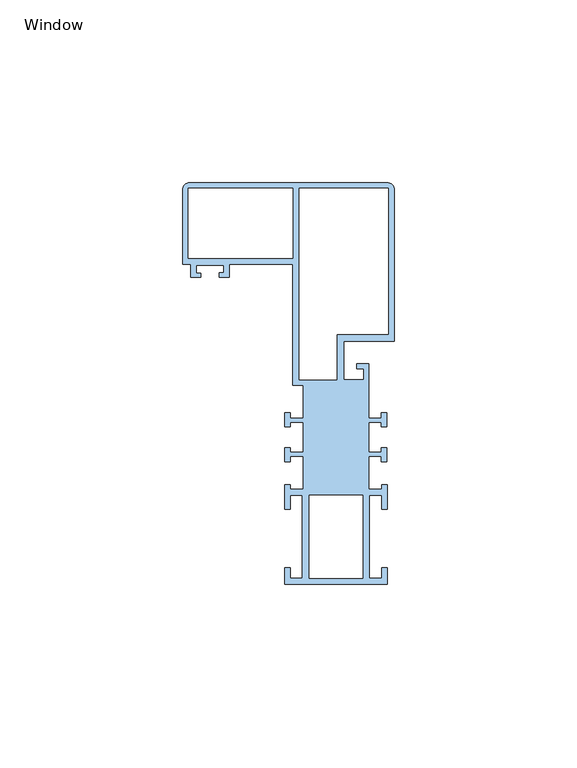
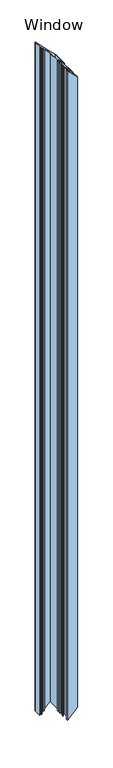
"""IFC4 building model written with IfcOpenShell, lengths in millimetres: window geometry, QO-V-QBISS_Window Module : Window."""

from ifc_helpers import new_model, si_unit, frame, origin, place, context, project, spatial, ellipse_curve, source, transform, mapped, element, save
from ifc_brep_helpers import plane_surface, cylinder_surface, advanced_brep


def window_7d5e8ae2(model_context):
    return source(origin(), model_context, "Body", "AdvancedBrep", [
        advanced_brep(
        [(-970.9523452, -84.0037561, 1954.4523452), (-970.9523452, -75.0037405, 1954.4523452), (-970.9523452, -75.0037405, 45.5476548), (-970.9523452, -84.0037561, 45.5476548), (-974.4523458, -75.0037405, 1957.9523458), (-974.4523458, -75.0037405, 42.0476542), (-974.4523458, -76.5037405, 42.0476542), (-975.9523458, -76.5037405, 40.5476542), (-975.9523458, -72.6037405, 40.5476542), (-974.4523458, -72.6037405, 42.0476542), (-974.4523458, -73.8037405, 42.0476542), (-970.9523458, -73.8037405, 45.5476542), (-970.9523458, -65.7037405, 45.5476542), (-974.4523458, -65.7037405, 42.0476542), (-974.4523458, -66.9037405, 42.0476542), (-975.9523458, -66.9037405, 40.5476542), (-975.9523458, -63.0037405, 40.5476542), (-974.4523458, -63.0037405, 42.0476542), (-974.4523458, -64.5037405, 42.0476542), (-970.9523459, -64.5037405, 45.5476541), (-970.9523459, -55.4999986, 45.5476541), (-973.8, -55.4999986, 42.7), (-973.8, -22.4, 42.7), (-991.2018295, -22.4, 25.2981705), (-991.2018295, -26.0, 25.2981705), (-994.0018295, -26.0, 22.4981705), (-994.0018295, -24.7, 22.4981705), (-992.7018295, -24.7, 23.7981705), (-992.7018295, -22.7, 23.7981705), (-1000.3018295, -22.7, 16.1981705), (-1000.3018295, -24.8, 16.1981705), (-999.0018295, -24.8, 17.4981705), (-999.0018295, -26.0, 17.4981705), (-1001.8018295, -26.0, 14.6981705), (-1001.8018295, -22.4, 14.6981705), (-1004.0, -22.4, 12.5), (-1004.0, -2.0, 12.5), (-1002.0, 0.0, 14.5), (-948.0, 0.0, 68.5), (-946.0, -2.0, 70.5), (-946.0, -43.5, 70.5), (-959.8, -43.5, 56.7), (-959.8, -54.0, 56.7), (-954.4, -54.0, 62.1), (-954.4, -51.0, 62.1), (-956.3, -51.0, 60.2), (-956.3, -49.6, 60.2), (-953.0, -49.6, 63.5), (-953.0, -64.5037405, 63.5), (-949.5513133, -64.5037405, 66.9486867), (-949.5513133, -63.0037405, 66.9486867), (-948.0513133, -63.0037405, 68.4486867), (-948.0513133, -66.9037405, 68.4486867), (-949.5513133, -66.9037405, 66.9486867), (-949.5513133, -65.7037405, 66.9486867), (-953.0513133, -65.7037405, 63.4486867), (-953.0513133, -73.8037405, 63.4486867), (-949.5513133, -73.8037405, 66.9486867), (-949.5513133, -72.6037405, 66.9486867), (-948.0513133, -72.6037405, 68.4486867), (-948.0513133, -76.5037405, 68.4486867), (-949.5513133, -76.5037405, 66.9486867), (-949.5513133, -75.0037405, 66.9486867), (-953.0513139, -75.0037405, 63.4486861), (-953.0513139, -84.0037561, 63.4486861), (-949.5018295, -84.0037561, 66.9981705), (-949.5018295, -82.8037561, 66.9981705), (-948.0018295, -82.8037561, 68.4981705), (-948.0018295, -89.5037561, 68.4981705), (-949.5018295, -89.5037561, 66.9981705), (-949.5018295, -85.7037561, 66.9981705), (-952.8018295, -85.7037561, 63.6981705), (-952.8018295, -108.3037561, 63.6981705), (-949.5018295, -108.3037561, 66.9981705), (-949.5018295, -105.5037561, 66.9981705), (-948.0018295, -105.5037561, 68.4981705), (-948.0018295, -110.0037561, 68.4981705), (-976.0018295, -110.0037561, 40.4981705), (-976.0018295, -105.5037561, 40.4981705), (-974.5018295, -105.5037561, 41.9981705), (-974.5018295, -108.3037561, 41.9981705), (-971.2018295, -108.3037561, 45.2981705), (-971.2018295, -85.7037561, 45.2981705), (-974.5018295, -85.7037561, 41.9981705), (-974.5018295, -89.5037561, 41.9981705), (-976.0018295, -89.5037561, 40.4981705), (-976.0018295, -82.8037561, 40.4981705), (-974.5018295, -82.8037561, 41.9981705), (-974.5018295, -84.0037561, 41.9981705), (-973.8, -20.7, 42.7), (-973.8, -1.5, 42.7), (-1002.5, -1.5, 14.0), (-1002.5, -20.7, 14.0), (-961.8, -54.0, 54.7), (-961.8, -41.5, 54.7), (-947.7, -41.5, 68.8), (-947.7, -1.5, 68.8), (-972.1, -1.5, 44.4), (-972.1, -54.0, 44.4), (-969.3018295, -108.3037561, 47.1981705), (-954.7018295, -108.3037561, 61.7981705), (-954.7018295, -85.7037561, 61.7981705), (-969.3018295, -85.7037561, 47.1981705), (-974.5018295, -84.0037561, 1958.0018295), (-974.5018295, -82.8037561, 1958.0018295), (-976.0018295, -82.8037561, 1959.5018295), (-976.0018295, -89.5037561, 1959.5018295), (-974.5018295, -89.5037561, 1958.0018295), (-974.5018295, -85.7037561, 1958.0018295), (-971.2018295, -85.7037561, 1954.7018295), (-971.2018295, -108.3037561, 1954.7018295), (-974.5018295, -108.3037561, 1958.0018295), (-974.5018295, -105.5037561, 1958.0018295), (-976.0018295, -105.5037561, 1959.5018295), (-976.0018295, -110.0037561, 1959.5018295), (-948.0018295, -110.0037561, 1931.5018295), (-948.0018295, -105.5037561, 1931.5018295), (-949.5018295, -105.5037561, 1933.0018295), (-949.5018295, -108.3037561, 1933.0018295), (-952.8018295, -108.3037561, 1936.3018295), (-952.8018295, -85.7037561, 1936.3018295), (-949.5018295, -85.7037561, 1933.0018295), (-949.5018295, -89.5037561, 1933.0018295), (-948.0018295, -89.5037561, 1931.5018295), (-948.0018295, -82.8037561, 1931.5018295), (-949.5018295, -82.8037561, 1933.0018295), (-949.5018295, -84.0037561, 1933.0018295), (-953.0513139, -84.0037561, 1936.5513139), (-953.0513139, -75.0037405, 1936.5513139), (-949.5513133, -75.0037405, 1933.0513133), (-949.5513133, -76.5037405, 1933.0513133), (-948.0513133, -76.5037405, 1931.5513133), (-948.0513133, -72.6037405, 1931.5513133), (-949.5513133, -72.6037405, 1933.0513133), (-949.5513133, -73.8037405, 1933.0513133), (-953.0513133, -73.8037405, 1936.5513133), (-953.0513133, -65.7037405, 1936.5513133), (-949.5513133, -65.7037405, 1933.0513133), (-949.5513133, -66.9037405, 1933.0513133), (-948.0513133, -66.9037405, 1931.5513133), (-948.0513133, -63.0037405, 1931.5513133), (-949.5513133, -63.0037405, 1933.0513133), (-949.5513133, -64.5037405, 1933.0513133), (-953.0, -64.5037405, 1936.5), (-953.0, -49.6, 1936.5), (-956.3, -49.6, 1939.8), (-956.3, -51.0, 1939.8), (-954.4, -51.0, 1937.9), (-954.4, -54.0, 1937.9), (-959.8, -54.0, 1943.3), (-959.8, -43.5, 1943.3), (-946.0, -43.5, 1929.5), (-946.0, -2.0, 1929.5), (-948.0, 0.0, 1931.5), (-1002.0, 0.0, 1985.5), (-1004.0, -2.0, 1987.5), (-1004.0, -22.4, 1987.5), (-1001.8018295, -22.4, 1985.3018295), (-1001.8018295, -26.0, 1985.3018295), (-999.0018295, -26.0, 1982.5018295), (-999.0018295, -24.8, 1982.5018295), (-1000.3018295, -24.8, 1983.8018295), (-1000.3018295, -22.7, 1983.8018295), (-992.7018295, -22.7, 1976.2018295), (-992.7018295, -24.7, 1976.2018295), (-994.0018295, -24.7, 1977.5018295), (-994.0018295, -26.0, 1977.5018295), (-991.2018295, -26.0, 1974.7018295), (-991.2018295, -22.4, 1974.7018295), (-973.8, -22.4, 1957.3), (-973.8, -55.4999986, 1957.3), (-970.9523459, -55.4999986, 1954.4523459), (-970.9523459, -64.5037405, 1954.4523459), (-974.4523458, -64.5037405, 1957.9523458), (-974.4523458, -63.0037405, 1957.9523458), (-975.9523458, -63.0037405, 1959.4523458), (-975.9523458, -66.9037405, 1959.4523458), (-974.4523458, -66.9037405, 1957.9523458), (-974.4523458, -65.7037405, 1957.9523458), (-970.9523458, -65.7037405, 1954.4523458), (-970.9523458, -73.8037405, 1954.4523458), (-974.4523458, -73.8037405, 1957.9523458), (-974.4523458, -72.6037405, 1957.9523458), (-975.9523458, -72.6037405, 1959.4523458), (-975.9523458, -76.5037405, 1959.4523458), (-974.4523458, -76.5037405, 1957.9523458), (-973.8, -20.7, 1957.3), (-973.8, -1.5, 1957.3), (-1002.5, -1.5, 1986.0), (-1002.5, -20.7, 1986.0), (-961.8, -54.0, 1945.3), (-961.8, -41.5, 1945.3), (-947.7, -41.5, 1931.2), (-972.1, -54.0, 1955.6), (-972.1, -1.5, 1955.6), (-947.7, -1.5, 1931.2), (-969.3018295, -108.3037561, 1952.8018295), (-954.7018295, -108.3037561, 1938.2018295), (-954.7018295, -85.7037561, 1938.2018295), (-969.3018295, -85.7037561, 1952.8018295)],
        [
            (0, 1),
            (1, 2),
            (2, 3),
            (3, 0),
            (1, 4),
            (4, 5),
            (5, 2),
            (5, 6),
            (6, 7),
            (7, 8),
            (8, 9),
            (9, 10),
            (10, 11),
            (11, 12),
            (12, 13),
            (13, 14),
            (14, 15),
            (15, 16),
            (16, 17),
            (17, 18),
            (18, 19),
            (19, 20),
            (20, 21),
            (21, 22),
            (22, 23),
            (23, 24),
            (24, 25),
            (25, 26),
            (26, 27),
            (27, 28),
            (28, 29),
            (29, 30),
            (30, 31),
            (31, 32),
            (32, 33),
            (33, 34),
            (34, 35),
            (35, 36),
            (36, 37, ellipse_curve(frame((-1002.0, -2.0, 14.5), z_axis=(0.7071067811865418, 0.0, -0.7071067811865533), x_axis=(0.7071067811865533, 0.0, 0.7071067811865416)), 2.8284271, 2.0)),
            (37, 38),
            (38, 39, ellipse_curve(frame((-948.0, -2.0, 68.5), z_axis=(0.7071067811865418, 0.0, -0.7071067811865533), x_axis=(0.7071067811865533, 0.0, 0.7071067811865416)), 2.8284271, 2.0)),
            (39, 40),
            (40, 41),
            (41, 42),
            (42, 43),
            (43, 44),
            (44, 45),
            (45, 46),
            (46, 47),
            (47, 48),
            (48, 49),
            (49, 50),
            (50, 51),
            (51, 52),
            (52, 53),
            (53, 54),
            (54, 55),
            (55, 56),
            (56, 57),
            (57, 58),
            (58, 59),
            (59, 60),
            (60, 61),
            (61, 62),
            (62, 63),
            (63, 64),
            (64, 65),
            (65, 66),
            (66, 67),
            (67, 68),
            (68, 69),
            (69, 70),
            (70, 71),
            (71, 72),
            (72, 73),
            (73, 74),
            (74, 75),
            (75, 76),
            (76, 77),
            (77, 78),
            (78, 79),
            (79, 80),
            (80, 81),
            (81, 82),
            (82, 83),
            (83, 84),
            (84, 85),
            (85, 86),
            (86, 87),
            (87, 88),
            (88, 3),
            (89, 90),
            (90, 91),
            (91, 92),
            (92, 89),
            (93, 94),
            (94, 95),
            (95, 96),
            (96, 97),
            (97, 98),
            (98, 93),
            (99, 100),
            (100, 101),
            (101, 102),
            (102, 99),
            (103, 0),
            (88, 103),
            (104, 103),
            (87, 104),
            (105, 104),
            (86, 105),
            (106, 105),
            (85, 106),
            (107, 106),
            (84, 107),
            (108, 107),
            (83, 108),
            (109, 108),
            (82, 109),
            (110, 109),
            (81, 110),
            (111, 110),
            (80, 111),
            (112, 111),
            (79, 112),
            (113, 112),
            (78, 113),
            (114, 113),
            (77, 114),
            (115, 114),
            (76, 115),
            (116, 115),
            (75, 116),
            (117, 116),
            (74, 117),
            (118, 117),
            (73, 118),
            (119, 118),
            (72, 119),
            (120, 119),
            (71, 120),
            (121, 120),
            (70, 121),
            (122, 121),
            (69, 122),
            (123, 122),
            (68, 123),
            (124, 123),
            (67, 124),
            (125, 124),
            (66, 125),
            (126, 125),
            (65, 126),
            (127, 126),
            (64, 127),
            (128, 127),
            (63, 128),
            (129, 128),
            (62, 129),
            (130, 129),
            (61, 130),
            (131, 130),
            (60, 131),
            (132, 131),
            (59, 132),
            (133, 132),
            (58, 133),
            (134, 133),
            (57, 134),
            (135, 134),
            (56, 135),
            (136, 135),
            (55, 136),
            (137, 136),
            (54, 137),
            (138, 137),
            (53, 138),
            (139, 138),
            (52, 139),
            (140, 139),
            (51, 140),
            (141, 140),
            (50, 141),
            (142, 141),
            (49, 142),
            (143, 142),
            (48, 143),
            (144, 143),
            (47, 144),
            (145, 144),
            (46, 145),
            (146, 145),
            (45, 146),
            (147, 146),
            (44, 147),
            (148, 147),
            (43, 148),
            (149, 148),
            (42, 149),
            (150, 149),
            (41, 150),
            (151, 150),
            (40, 151),
            (152, 151),
            (39, 152),
            (153, 152, ellipse_curve(frame((-948.0, -2.0, 1931.5), z_axis=(-0.7071067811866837, 0.0, -0.7071067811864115), x_axis=(-0.7071067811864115, 0.0, 0.7071067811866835)), 2.8284271, 2.0)),
            (38, 153),
            (154, 153),
            (37, 154),
            (36, 155),
            (155, 154, ellipse_curve(frame((-1002.0, -2.0, 1985.5), z_axis=(-0.7071067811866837, 0.0, -0.7071067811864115), x_axis=(-0.7071067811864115, 0.0, 0.7071067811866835)), 2.8284271, 2.0)),
            (35, 156),
            (156, 155),
            (34, 157),
            (157, 156),
            (158, 157),
            (33, 158),
            (159, 158),
            (32, 159),
            (160, 159),
            (31, 160),
            (161, 160),
            (30, 161),
            (162, 161),
            (29, 162),
            (163, 162),
            (28, 163),
            (164, 163),
            (27, 164),
            (165, 164),
            (26, 165),
            (166, 165),
            (25, 166),
            (167, 166),
            (24, 167),
            (168, 167),
            (23, 168),
            (169, 168),
            (22, 169),
            (170, 169),
            (21, 170),
            (171, 170),
            (20, 171),
            (172, 171),
            (19, 172),
            (173, 172),
            (18, 173),
            (174, 173),
            (17, 174),
            (175, 174),
            (16, 175),
            (176, 175),
            (15, 176),
            (177, 176),
            (14, 177),
            (178, 177),
            (13, 178),
            (179, 178),
            (12, 179),
            (180, 179),
            (11, 180),
            (181, 180),
            (10, 181),
            (182, 181),
            (9, 182),
            (183, 182),
            (8, 183),
            (184, 183),
            (7, 184),
            (185, 184),
            (6, 185),
            (4, 185),
            (186, 187),
            (187, 90),
            (89, 186),
            (187, 188),
            (188, 91),
            (189, 186),
            (92, 189),
            (188, 189),
            (190, 191),
            (191, 94),
            (93, 190),
            (191, 192),
            (192, 95),
            (193, 190),
            (98, 193),
            (194, 193),
            (97, 194),
            (195, 194),
            (96, 195),
            (192, 195),
            (196, 197),
            (197, 100),
            (99, 196),
            (197, 198),
            (198, 101),
            (199, 196),
            (102, 199),
            (198, 199),
        ],
        [
            plane_surface(frame((-970.9523452, -75.0037405, 1987.5), z_axis=(-1.0, 0.0, 0.0), x_axis=(0.0, 0.0, -1.0))),
            plane_surface(frame((-974.4523458, -75.0037405, 1987.5), z_axis=(0.0, -1.0, 0.0), x_axis=(0.0, 0.0, -1.0))),
            plane_surface(frame((-946.0, -180.0, 70.5), z_axis=(0.7071067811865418, 0.0, -0.7071067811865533), x_axis=(0.0, 1.0, 0.0))),
            plane_surface(frame((-970.9523452, -84.0037561, 1987.5), z_axis=(0.0, 1.0, 0.0), x_axis=(0.0, 0.0, -1.0))),
            plane_surface(frame((-974.5018295, -84.0037561, 1987.5), z_axis=(1.0, 0.0, 0.0), x_axis=(0.0, 0.0, -1.0))),
            plane_surface(frame((-974.5018295, -82.8037561, 1987.5), z_axis=(0.0, 1.0, 0.0), x_axis=(0.0, 0.0, -1.0))),
            plane_surface(frame((-976.0018295, -82.8037561, 1987.5), z_axis=(-1.0, 0.0, 0.0), x_axis=(0.0, 0.0, -1.0))),
            plane_surface(frame((-976.0018295, -89.5037561, 1987.5), z_axis=(0.0, -1.0, 0.0), x_axis=(0.0, 0.0, -1.0))),
            plane_surface(frame((-974.5018295, -89.5037561, 1987.5), z_axis=(1.0, 0.0, 0.0), x_axis=(0.0, 0.0, -1.0))),
            plane_surface(frame((-974.5018295, -85.7037561, 1987.5), z_axis=(0.0, -1.0, 0.0), x_axis=(0.0, 0.0, -1.0))),
            plane_surface(frame((-971.2018295, -85.7037561, 1987.5), z_axis=(-1.0, 0.0, 0.0), x_axis=(0.0, 0.0, -1.0))),
            plane_surface(frame((-971.2018295, -108.3037561, 1987.5), z_axis=(0.0, 1.0, 0.0), x_axis=(0.0, 0.0, -1.0))),
            plane_surface(frame((-974.5018295, -108.3037561, 1987.5), z_axis=(1.0, 0.0, 0.0), x_axis=(0.0, 0.0, -1.0))),
            plane_surface(frame((-974.5018295, -105.5037561, 1987.5), z_axis=(0.0, 1.0, 0.0), x_axis=(0.0, 0.0, -1.0))),
            plane_surface(frame((-976.0018295, -105.5037561, 1987.5), z_axis=(-1.0, 0.0, 0.0), x_axis=(0.0, 0.0, -1.0))),
            plane_surface(frame((-976.0018295, -110.0037561, 1987.5), z_axis=(0.0, -1.0, 0.0), x_axis=(0.0, 0.0, -1.0))),
            plane_surface(frame((-948.0018295, -110.0037561, 1987.5), z_axis=(1.0, 0.0, 0.0), x_axis=(0.0, 0.0, -1.0))),
            plane_surface(frame((-948.0018295, -105.5037561, 1987.5), z_axis=(0.0, 1.0, 0.0), x_axis=(0.0, 0.0, -1.0))),
            plane_surface(frame((-949.5018295, -105.5037561, 1987.5), z_axis=(-1.0, 0.0, 0.0), x_axis=(0.0, 0.0, -1.0))),
            plane_surface(frame((-949.5018295, -108.3037561, 1987.5), z_axis=(0.0, 1.0, 0.0), x_axis=(0.0, 0.0, -1.0))),
            plane_surface(frame((-952.8018295, -108.3037561, 1987.5), z_axis=(1.0, 0.0, 0.0), x_axis=(0.0, 0.0, -1.0))),
            plane_surface(frame((-952.8018295, -85.7037561, 1987.5), z_axis=(0.0, -1.0, 0.0), x_axis=(0.0, 0.0, -1.0))),
            plane_surface(frame((-949.5018295, -85.7037561, 1987.5), z_axis=(-1.0, 0.0, 0.0), x_axis=(0.0, 0.0, -1.0))),
            plane_surface(frame((-949.5018295, -89.5037561, 1987.5), z_axis=(0.0, -1.0, 0.0), x_axis=(0.0, 0.0, -1.0))),
            plane_surface(frame((-948.0018295, -89.5037561, 1987.5), z_axis=(1.0, 0.0, 0.0), x_axis=(0.0, 0.0, -1.0))),
            plane_surface(frame((-948.0018295, -82.8037561, 1987.5), z_axis=(0.0, 1.0, 0.0), x_axis=(0.0, 0.0, -1.0))),
            plane_surface(frame((-949.5018295, -82.8037561, 1987.5), z_axis=(-1.0, 0.0, 0.0), x_axis=(0.0, 0.0, -1.0))),
            plane_surface(frame((-949.5018295, -84.0037561, 1987.5), z_axis=(0.0, 1.0, 0.0), x_axis=(0.0, 0.0, -1.0))),
            plane_surface(frame((-953.0513139, -84.0037561, 1987.5), z_axis=(1.0, 0.0, 0.0), x_axis=(0.0, 0.0, -1.0))),
            plane_surface(frame((-953.0513139, -75.0037405, 1987.5), z_axis=(0.0, -1.0, 0.0), x_axis=(0.0, 0.0, -1.0))),
            plane_surface(frame((-949.5513133, -75.0037405, 1987.5), z_axis=(-1.0, 0.0, 0.0), x_axis=(0.0, 0.0, -1.0))),
            plane_surface(frame((-949.5513133, -76.5037405, 1987.5), z_axis=(0.0, -1.0, 0.0), x_axis=(0.0, 0.0, -1.0))),
            plane_surface(frame((-948.0513133, -76.5037405, 1987.5), z_axis=(1.0, 0.0, 0.0), x_axis=(0.0, 0.0, -1.0))),
            plane_surface(frame((-948.0513133, -72.6037405, 1987.5), z_axis=(0.0, 1.0, 0.0), x_axis=(0.0, 0.0, -1.0))),
            plane_surface(frame((-949.5513133, -72.6037405, 1987.5), z_axis=(-1.0, 0.0, 0.0), x_axis=(0.0, 0.0, -1.0))),
            plane_surface(frame((-949.5513133, -73.8037405, 1987.5), z_axis=(0.0, 1.0, 0.0), x_axis=(0.0, 0.0, -1.0))),
            plane_surface(frame((-953.0513133, -73.8037405, 1987.5), z_axis=(1.0, 0.0, 0.0), x_axis=(0.0, 0.0, -1.0))),
            plane_surface(frame((-953.0513133, -65.7037405, 1987.5), z_axis=(0.0, -1.0, 0.0), x_axis=(0.0, 0.0, -1.0))),
            plane_surface(frame((-949.5513133, -65.7037405, 1987.5), z_axis=(-1.0, 0.0, 0.0), x_axis=(0.0, 0.0, -1.0))),
            plane_surface(frame((-949.5513133, -66.9037405, 1987.5), z_axis=(0.0, -1.0, 0.0), x_axis=(0.0, 0.0, -1.0))),
            plane_surface(frame((-948.0513133, -66.9037405, 1987.5), z_axis=(1.0, 0.0, 0.0), x_axis=(0.0, 0.0, -1.0))),
            plane_surface(frame((-948.0513133, -63.0037405, 1987.5), z_axis=(0.0, 1.0, 0.0), x_axis=(0.0, 0.0, -1.0))),
            plane_surface(frame((-949.5513133, -63.0037405, 1987.5), z_axis=(-1.0, 0.0, 0.0), x_axis=(0.0, 0.0, -1.0))),
            plane_surface(frame((-949.5513133, -64.5037405, 1987.5), z_axis=(0.0, 1.0, 0.0), x_axis=(0.0, 0.0, -1.0))),
            plane_surface(frame((-953.0, -64.5037405, 1987.5), z_axis=(1.0, 0.0, 0.0), x_axis=(0.0, 0.0, -1.0))),
            plane_surface(frame((-953.0, -49.6, 1987.5), z_axis=(0.0, 1.0, 0.0), x_axis=(0.0, 0.0, -1.0))),
            plane_surface(frame((-956.3, -49.6, 1987.5), z_axis=(-1.0, 0.0, 0.0), x_axis=(0.0, 0.0, -1.0))),
            plane_surface(frame((-956.3, -51.0, 1987.5), z_axis=(0.0, -1.0, 0.0), x_axis=(0.0, 0.0, -1.0))),
            plane_surface(frame((-954.4, -51.0, 1987.5), z_axis=(-1.0, 0.0, 0.0), x_axis=(0.0, 0.0, -1.0))),
            plane_surface(frame((-954.4, -54.0, 1987.5), z_axis=(0.0, 1.0, 0.0), x_axis=(0.0, 0.0, -1.0))),
            plane_surface(frame((-959.8, -54.0, 1987.5), z_axis=(1.0, 0.0, 0.0), x_axis=(0.0, 0.0, -1.0))),
            plane_surface(frame((-959.8, -43.5, 1987.5), z_axis=(0.0, -1.0, 0.0), x_axis=(0.0, 0.0, -1.0))),
            plane_surface(frame((-946.0, -43.5, 1987.5), z_axis=(1.0, 0.0, 0.0), x_axis=(0.0, 0.0, -1.0))),
            cylinder_surface(frame((-948.0, -2.0, 1987.5), z_axis=(0.0, 0.0, 1.0), x_axis=(0.0, -1.0, 0.0)), 2.0),
            plane_surface(frame((-948.0, 0.0, 1987.5), z_axis=(0.0, 1.0, 0.0), x_axis=(0.0, 0.0, -1.0))),
            cylinder_surface(frame((-1002.0, -2.0, 1987.5), z_axis=(0.0, 0.0, 1.0), x_axis=(0.0, -1.0, 0.0)), 2.0),
            plane_surface(frame((-1004.0, -2.0, 1987.5), z_axis=(-1.0, 0.0, 0.0), x_axis=(0.0, 0.0, -1.0))),
            plane_surface(frame((-1004.0, -22.4, 1987.5), z_axis=(0.0, -1.0, 0.0), x_axis=(0.0, 0.0, -1.0))),
            plane_surface(frame((-1001.8018295, -22.4, 1987.5), z_axis=(-1.0, 0.0, 0.0), x_axis=(0.0, 0.0, -1.0))),
            plane_surface(frame((-1001.8018295, -26.0, 1987.5), z_axis=(0.0, -1.0, 0.0), x_axis=(0.0, 0.0, -1.0))),
            plane_surface(frame((-999.0018295, -26.0, 1987.5), z_axis=(1.0, 0.0, 0.0), x_axis=(0.0, 0.0, -1.0))),
            plane_surface(frame((-999.0018295, -24.8, 1987.5), z_axis=(0.0, 1.0, 0.0), x_axis=(0.0, 0.0, -1.0))),
            plane_surface(frame((-1000.3018295, -24.8, 1987.5), z_axis=(1.0, 0.0, 0.0), x_axis=(0.0, 0.0, -1.0))),
            plane_surface(frame((-1000.3018295, -22.7, 1987.5), z_axis=(0.0, -1.0, 0.0), x_axis=(0.0, 0.0, -1.0))),
            plane_surface(frame((-992.7018295, -22.7, 1987.5), z_axis=(-1.0, 0.0, 0.0), x_axis=(0.0, 0.0, -1.0))),
            plane_surface(frame((-992.7018295, -24.7, 1987.5), z_axis=(0.0, 1.0, 0.0), x_axis=(0.0, 0.0, -1.0))),
            plane_surface(frame((-994.0018295, -24.7, 1987.5), z_axis=(-1.0, 0.0, 0.0), x_axis=(0.0, 0.0, -1.0))),
            plane_surface(frame((-994.0018295, -26.0, 1987.5), z_axis=(0.0, -1.0, 0.0), x_axis=(0.0, 0.0, -1.0))),
            plane_surface(frame((-991.2018295, -26.0, 1987.5), z_axis=(1.0, 0.0, 0.0), x_axis=(0.0, 0.0, -1.0))),
            plane_surface(frame((-991.2018295, -22.4, 1987.5), z_axis=(0.0, -1.0, 0.0), x_axis=(0.0, 0.0, -1.0))),
            plane_surface(frame((-973.8, -22.4, 1987.5), z_axis=(-1.0, 0.0, 0.0), x_axis=(0.0, 0.0, -1.0))),
            plane_surface(frame((-973.8, -55.4999986, 1987.5), z_axis=(0.0, -1.0, 0.0), x_axis=(0.0, 0.0, -1.0))),
            plane_surface(frame((-970.9523459, -55.4999986, 1987.5), z_axis=(-1.0, 0.0, 0.0), x_axis=(0.0, 0.0, -1.0))),
            plane_surface(frame((-970.9523459, -64.5037405, 1987.5), z_axis=(0.0, 1.0, 0.0), x_axis=(0.0, 0.0, -1.0))),
            plane_surface(frame((-974.4523458, -64.5037405, 1987.5), z_axis=(1.0, 0.0, 0.0), x_axis=(0.0, 0.0, -1.0))),
            plane_surface(frame((-974.4523458, -63.0037405, 1987.5), z_axis=(0.0, 1.0, 0.0), x_axis=(0.0, 0.0, -1.0))),
            plane_surface(frame((-975.9523458, -63.0037405, 1987.5), z_axis=(-1.0, 0.0, 0.0), x_axis=(0.0, 0.0, -1.0))),
            plane_surface(frame((-975.9523458, -66.9037405, 1987.5), z_axis=(0.0, -1.0, 0.0), x_axis=(0.0, 0.0, -1.0))),
            plane_surface(frame((-974.4523458, -66.9037405, 1987.5), z_axis=(1.0, 0.0, 0.0), x_axis=(0.0, 0.0, -1.0))),
            plane_surface(frame((-974.4523458, -65.7037405, 1987.5), z_axis=(0.0, -1.0, 0.0), x_axis=(0.0, 0.0, -1.0))),
            plane_surface(frame((-970.9523458, -65.7037405, 1987.5), z_axis=(-1.0, 0.0, 0.0), x_axis=(0.0, 0.0, -1.0))),
            plane_surface(frame((-970.9523458, -73.8037405, 1987.5), z_axis=(0.0, 1.0, 0.0), x_axis=(0.0, 0.0, -1.0))),
            plane_surface(frame((-974.4523458, -73.8037405, 1987.5), z_axis=(1.0, 0.0, 0.0), x_axis=(0.0, 0.0, -1.0))),
            plane_surface(frame((-974.4523458, -72.6037405, 1987.5), z_axis=(0.0, 1.0, 0.0), x_axis=(0.0, 0.0, -1.0))),
            plane_surface(frame((-975.9523458, -72.6037405, 1987.5), z_axis=(-1.0, 0.0, 0.0), x_axis=(0.0, 0.0, -1.0))),
            plane_surface(frame((-975.9523458, -76.5037405, 1987.5), z_axis=(0.0, -1.0, 0.0), x_axis=(0.0, 0.0, -1.0))),
            plane_surface(frame((-974.4523458, -76.5037405, 1987.5), z_axis=(1.0, 0.0, 0.0), x_axis=(0.0, 0.0, -1.0))),
            plane_surface(frame((-973.8, -1.5, 1987.5), z_axis=(-1.0, 0.0, 0.0), x_axis=(0.0, 0.0, -1.0))),
            plane_surface(frame((-1002.5, -1.5, 1987.5), z_axis=(0.0, -1.0, 0.0), x_axis=(0.0, 0.0, -1.0))),
            plane_surface(frame((-973.8, -20.7, 1987.5), z_axis=(0.0, 1.0, 0.0), x_axis=(0.0, 0.0, -1.0))),
            plane_surface(frame((-1002.5, -20.7, 1987.5), z_axis=(1.0, 0.0, 0.0), x_axis=(0.0, 0.0, -1.0))),
            plane_surface(frame((-961.8, -41.5, 1987.5), z_axis=(-1.0, 0.0, 0.0), x_axis=(0.0, 0.0, -1.0))),
            plane_surface(frame((-947.7, -41.5, 1987.5), z_axis=(0.0, 1.0, 0.0), x_axis=(0.0, 0.0, -1.0))),
            plane_surface(frame((-961.8, -54.0, 1987.5), z_axis=(0.0, 1.0, 0.0), x_axis=(0.0, 0.0, -1.0))),
            plane_surface(frame((-972.1, -54.0, 1987.5), z_axis=(1.0, 0.0, 0.0), x_axis=(0.0, 0.0, -1.0))),
            plane_surface(frame((-972.1, -1.5, 1987.5), z_axis=(0.0, -1.0, 0.0), x_axis=(0.0, 0.0, -1.0))),
            plane_surface(frame((-947.7, -1.5, 1987.5), z_axis=(-1.0, 0.0, 0.0), x_axis=(0.0, 0.0, -1.0))),
            plane_surface(frame((-954.7018295, -108.3037561, 1987.5), z_axis=(0.0, 1.0, 0.0), x_axis=(0.0, 0.0, -1.0))),
            plane_surface(frame((-954.7018295, -85.7037561, 1987.5), z_axis=(-1.0, 0.0, 0.0), x_axis=(0.0, 0.0, -1.0))),
            plane_surface(frame((-969.3018295, -108.3037561, 1987.5), z_axis=(1.0, 0.0, 0.0), x_axis=(0.0, 0.0, -1.0))),
            plane_surface(frame((-969.3018295, -85.7037561, 1987.5), z_axis=(0.0, -1.0, 0.0), x_axis=(0.0, 0.0, -1.0))),
            plane_surface(frame((-1004.0, -120.0, 1987.5), z_axis=(0.7071067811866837, 0.0, 0.7071067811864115), x_axis=(0.0, 1.0, 0.0))),
        ],
        [
            (0, [[1, 2, 3, 4]]),
            (1, [[5, 6, 7, -2]]),
            (2, [[-3, -7, 8, 9, 10, 11, 12, 13, 14, 15, 16, 17, 18, 19, 20, 21, 22, 23, 24, 25, 26, 27, 28, 29, 30, 31, 32, 33, 34, 35, 36, 37, 38, 39, 40, 41, 42, 43, 44, 45, 46, 47, 48, 49, 50, 51, 52, 53, 54, 55, 56, 57, 58, 59, 60, 61, 62, 63, 64, 65, 66, 67, 68, 69, 70, 71, 72, 73, 74, 75, 76, 77, 78, 79, 80, 81, 82, 83, 84, 85, 86, 87, 88, 89, 90, 91], [92, 93, 94, 95], [96, 97, 98, 99, 100, 101], [102, 103, 104, 105]]),
            (3, [[106, -4, -91, 107]]),
            (4, [[108, -107, -90, 109]]),
            (5, [[110, -109, -89, 111]]),
            (6, [[112, -111, -88, 113]]),
            (7, [[114, -113, -87, 115]]),
            (8, [[116, -115, -86, 117]]),
            (9, [[118, -117, -85, 119]]),
            (10, [[120, -119, -84, 121]]),
            (11, [[122, -121, -83, 123]]),
            (12, [[124, -123, -82, 125]]),
            (13, [[126, -125, -81, 127]]),
            (14, [[128, -127, -80, 129]]),
            (15, [[130, -129, -79, 131]]),
            (16, [[132, -131, -78, 133]]),
            (17, [[134, -133, -77, 135]]),
            (18, [[136, -135, -76, 137]]),
            (19, [[138, -137, -75, 139]]),
            (20, [[140, -139, -74, 141]]),
            (21, [[142, -141, -73, 143]]),
            (22, [[144, -143, -72, 145]]),
            (23, [[146, -145, -71, 147]]),
            (24, [[148, -147, -70, 149]]),
            (25, [[150, -149, -69, 151]]),
            (26, [[152, -151, -68, 153]]),
            (27, [[154, -153, -67, 155]]),
            (28, [[156, -155, -66, 157]]),
            (29, [[158, -157, -65, 159]]),
            (30, [[160, -159, -64, 161]]),
            (31, [[162, -161, -63, 163]]),
            (32, [[164, -163, -62, 165]]),
            (33, [[166, -165, -61, 167]]),
            (34, [[168, -167, -60, 169]]),
            (35, [[170, -169, -59, 171]]),
            (36, [[172, -171, -58, 173]]),
            (37, [[174, -173, -57, 175]]),
            (38, [[176, -175, -56, 177]]),
            (39, [[178, -177, -55, 179]]),
            (40, [[180, -179, -54, 181]]),
            (41, [[182, -181, -53, 183]]),
            (42, [[184, -183, -52, 185]]),
            (43, [[186, -185, -51, 187]]),
            (44, [[188, -187, -50, 189]]),
            (45, [[190, -189, -49, 191]]),
            (46, [[192, -191, -48, 193]]),
            (47, [[194, -193, -47, 195]]),
            (48, [[196, -195, -46, 197]]),
            (49, [[198, -197, -45, 199]]),
            (50, [[200, -199, -44, 201]]),
            (51, [[202, -201, -43, 203]]),
            (52, [[204, -203, -42, 205]]),
            (53, [[206, -205, -41, 207]]),
            (54, [[208, -207, -40, 209]]),
            (55, [[210, 211, -209, -39]]),
            (56, [[-210, -38, 212, 213]]),
            (57, [[-212, -37, 214, 215]]),
            (58, [[216, -214, -36, 217]]),
            (59, [[218, -217, -35, 219]]),
            (60, [[220, -219, -34, 221]]),
            (61, [[222, -221, -33, 223]]),
            (62, [[224, -223, -32, 225]]),
            (63, [[226, -225, -31, 227]]),
            (64, [[228, -227, -30, 229]]),
            (65, [[230, -229, -29, 231]]),
            (66, [[232, -231, -28, 233]]),
            (67, [[234, -233, -27, 235]]),
            (68, [[236, -235, -26, 237]]),
            (69, [[238, -237, -25, 239]]),
            (70, [[240, -239, -24, 241]]),
            (71, [[242, -241, -23, 243]]),
            (72, [[244, -243, -22, 245]]),
            (73, [[246, -245, -21, 247]]),
            (74, [[248, -247, -20, 249]]),
            (75, [[250, -249, -19, 251]]),
            (76, [[252, -251, -18, 253]]),
            (77, [[254, -253, -17, 255]]),
            (78, [[256, -255, -16, 257]]),
            (79, [[258, -257, -15, 259]]),
            (80, [[260, -259, -14, 261]]),
            (81, [[262, -261, -13, 263]]),
            (82, [[264, -263, -12, 265]]),
            (83, [[266, -265, -11, 267]]),
            (84, [[268, -267, -10, 269]]),
            (85, [[270, -269, -9, 271]]),
            (86, [[272, -271, -8, -6]]),
            (87, [[273, 274, -92, 275]]),
            (88, [[276, 277, -93, -274]]),
            (89, [[278, -275, -95, 279]]),
            (90, [[280, -279, -94, -277]]),
            (91, [[281, 282, -96, 283]]),
            (92, [[284, 285, -97, -282]]),
            (93, [[286, -283, -101, 287]]),
            (94, [[288, -287, -100, 289]]),
            (95, [[290, -289, -99, 291]]),
            (96, [[292, -291, -98, -285]]),
            (97, [[293, 294, -102, 295]]),
            (98, [[296, 297, -103, -294]]),
            (99, [[298, -295, -105, 299]]),
            (100, [[300, -299, -104, -297]]),
            (101, [[-1, -106, -108, -110, -112, -114, -116, -118, -120, -122, -124, -126, -128, -130, -132, -134, -136, -138, -140, -142, -144, -146, -148, -150, -152, -154, -156, -158, -160, -162, -164, -166, -168, -170, -172, -174, -176, -178, -180, -182, -184, -186, -188, -190, -192, -194, -196, -198, -200, -202, -204, -206, -208, -211, -213, -215, -216, -218, -220, -222, -224, -226, -228, -230, -232, -234, -236, -238, -240, -242, -244, -246, -248, -250, -252, -254, -256, -258, -260, -262, -264, -266, -268, -270, -272, -5], [-273, -278, -280, -276], [-281, -286, -288, -290, -292, -284], [-293, -298, -300, -296]]),
        ],
    ),
    ])


if __name__ == "__main__":
    model = new_model("IFC4")
    model_context = context("Model", 3, world=origin())
    ifc_project = project(units=[si_unit("LENGTHUNIT", "METRE", prefix="MILLI")], contexts=[model_context])
    site = spatial("IfcSite", under=ifc_project)
    building = spatial("IfcBuilding", under=site)
    placement = place(None, origin())
    window_shape = window_7d5e8ae2(model_context)
    element("IfcWindow", 1, ObjectType="QO-V-QBISS_Window Module : Window", at=placement, inside=building, context=model_context, shape_type="MappedRepresentation", body=[
        mapped(window_shape, transform((0.0, 0.0, 0.0), x_axis=(1.0, 0.0, 0.0), y_axis=(0.0, 1.0, 0.0), z_axis=(0.0, 0.0, 1.0))),
    ])
    save(model, "model.ifc")
